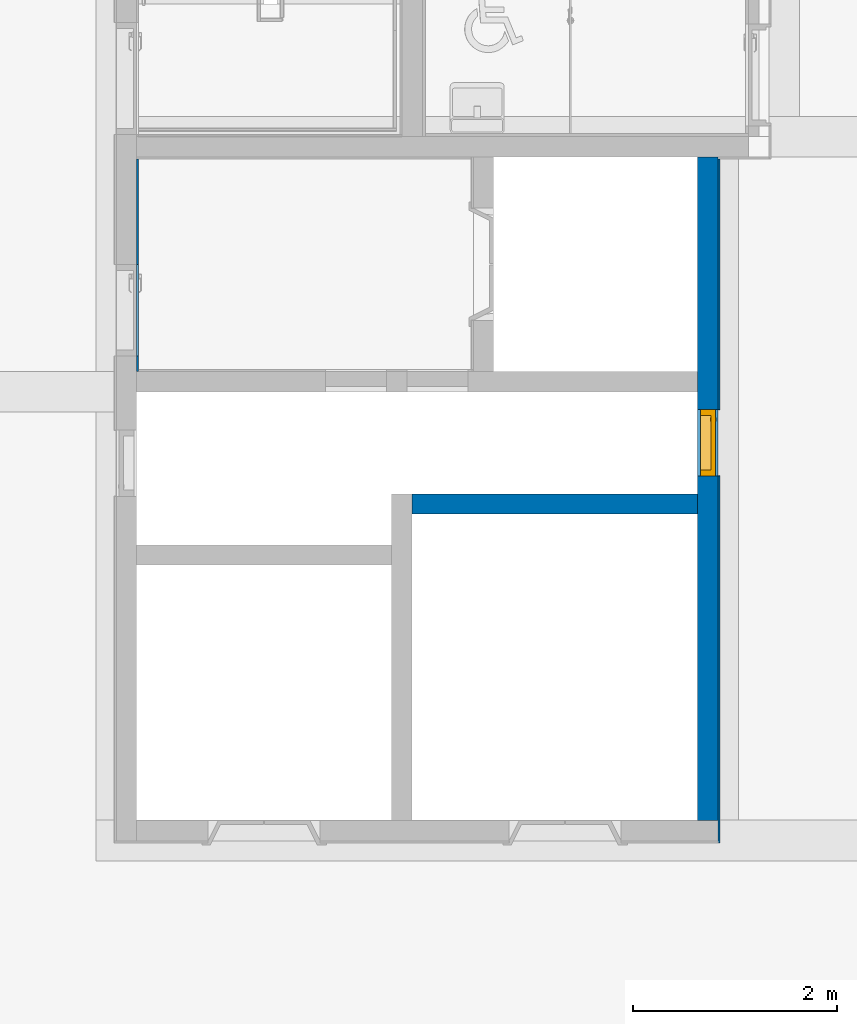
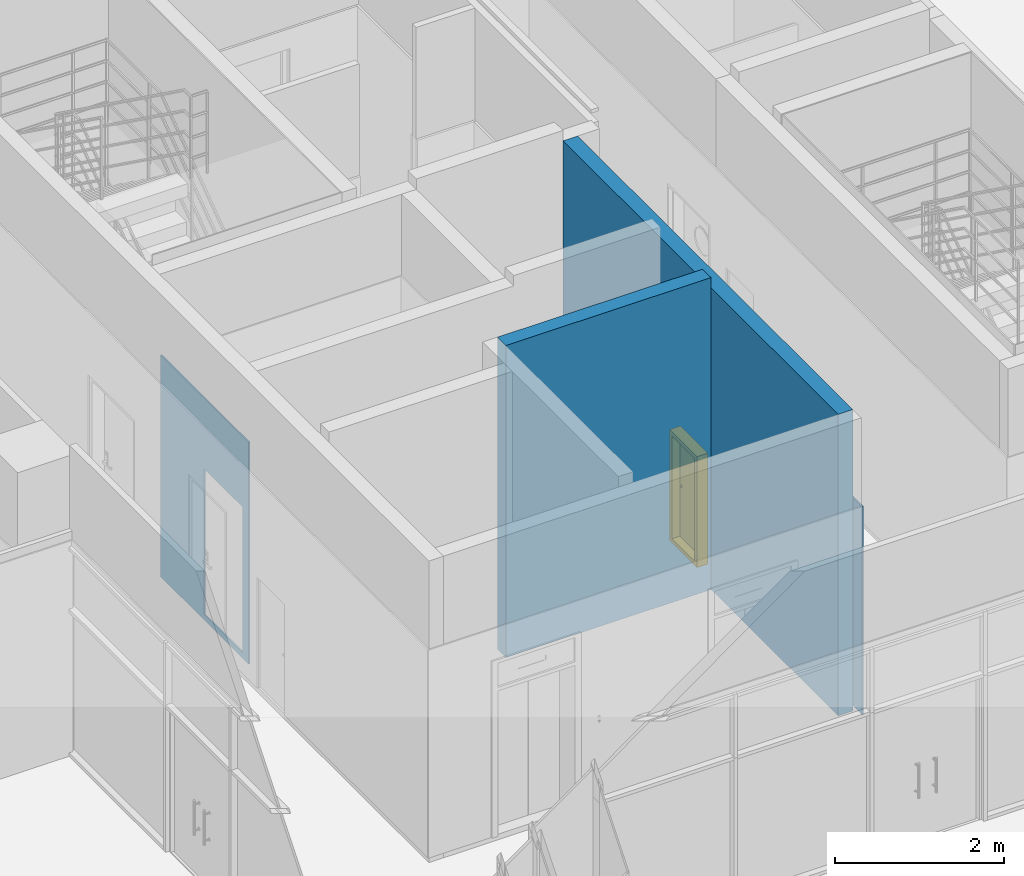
# One storey, part 52 of 74: 4 walls, 1 door, 3 openings.
"""IFC2X3 building model written with IfcOpenShell, lengths in millimetres."""

from ifc_helpers import new_model, entity, si_unit, converted_unit, derived_unit, direction, frame, frame_2d, origin, place, context, subcontext, project, spatial, polyline, rectangle, extrude, clip, bounded_halfspace, faceted_brep, source, transform, mapped, material, material_list, layer, layer_set, layer_usage, type_object, type_shapes, element, fill, save


model = new_model("IFC2X3")

# Units and contexts
model_context = context("Model", 3, precision=0.01, world=origin(), true_north=direction((6.123031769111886e-17, 1.0)))
body_context = subcontext(model_context, "Body", "Model", "MODEL_VIEW")
ifc_project = project(units=[si_unit("LENGTHUNIT", "METRE", prefix="MILLI"), si_unit("AREAUNIT", "SQUARE_METRE"), si_unit("VOLUMEUNIT", "CUBIC_METRE"), converted_unit("PLANEANGLEUNIT", "DEGREE", entity("IfcRatioMeasure", 0.017453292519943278), si_unit("PLANEANGLEUNIT", "RADIAN"), dimensions=[0, 0, 0, 0, 0, 0, 0]), si_unit("MASSUNIT", "GRAM", prefix="KILO"), derived_unit("MASSDENSITYUNIT", [(si_unit("MASSUNIT", "GRAM", prefix="KILO"), 1), (si_unit("LENGTHUNIT", "METRE"), -3)]), derived_unit("MOMENTOFINERTIAUNIT", [(si_unit("LENGTHUNIT", "METRE"), 4)]), si_unit("TIMEUNIT", "SECOND"), si_unit("FREQUENCYUNIT", "HERTZ"), si_unit("THERMODYNAMICTEMPERATUREUNIT", "DEGREE_CELSIUS"), derived_unit("THERMALTRANSMITTANCEUNIT", [(si_unit("MASSUNIT", "GRAM", prefix="KILO"), 1), (si_unit("THERMODYNAMICTEMPERATUREUNIT", "KELVIN"), -1), (si_unit("TIMEUNIT", "SECOND"), -3)]), derived_unit("VOLUMETRICFLOWRATEUNIT", [(si_unit("LENGTHUNIT", "METRE"), 3), (si_unit("TIMEUNIT", "SECOND"), -1)]), derived_unit("MASSFLOWRATEUNIT", [(si_unit("MASSUNIT", "GRAM", prefix="KILO"), 1), (si_unit("TIMEUNIT", "SECOND"), -1)]), derived_unit("ROTATIONALFREQUENCYUNIT", [(si_unit("TIMEUNIT", "SECOND"), -1)]), si_unit("ELECTRICCURRENTUNIT", "AMPERE"), si_unit("ELECTRICVOLTAGEUNIT", "VOLT"), si_unit("POWERUNIT", "WATT"), si_unit("FORCEUNIT", "NEWTON", prefix="KILO"), si_unit("ILLUMINANCEUNIT", "LUX"), si_unit("LUMINOUSFLUXUNIT", "LUMEN"), si_unit("LUMINOUSINTENSITYUNIT", "CANDELA"), derived_unit("USERDEFINED", [(si_unit("MASSUNIT", "GRAM", prefix="KILO"), -1), (si_unit("LENGTHUNIT", "METRE"), -2), (si_unit("TIMEUNIT", "SECOND"), 3), (si_unit("LUMINOUSFLUXUNIT", "LUMEN"), 1)]), derived_unit("SOUNDPOWERUNIT", [(si_unit("MASSUNIT", "GRAM", prefix="KILO"), 1), (si_unit("LENGTHUNIT", "METRE"), 2), (si_unit("TIMEUNIT", "SECOND"), -3)]), derived_unit("SOUNDPRESSUREUNIT", [(si_unit("MASSUNIT", "GRAM", prefix="KILO"), 1), (si_unit("LENGTHUNIT", "METRE"), -1), (si_unit("TIMEUNIT", "SECOND"), -2)]), derived_unit("LINEARVELOCITYUNIT", [(si_unit("LENGTHUNIT", "METRE"), 1), (si_unit("TIMEUNIT", "SECOND"), -1)]), si_unit("PRESSUREUNIT", "PASCAL"), derived_unit("USERDEFINED", [(si_unit("LENGTHUNIT", "METRE"), -2), (si_unit("MASSUNIT", "GRAM", prefix="KILO"), 1), (si_unit("TIMEUNIT", "SECOND"), -2)]), derived_unit("LINEARFORCEUNIT", [(si_unit("MASSUNIT", "GRAM", prefix="KILO"), 1), (si_unit("LENGTHUNIT", "METRE"), 1), (si_unit("TIMEUNIT", "SECOND"), -2), (si_unit("LENGTHUNIT", "METRE"), -1)]), derived_unit("PLANARFORCEUNIT", [(si_unit("MASSUNIT", "GRAM", prefix="KILO"), 1), (si_unit("LENGTHUNIT", "METRE"), 1), (si_unit("TIMEUNIT", "SECOND"), -2), (si_unit("LENGTHUNIT", "METRE"), -2)])], contexts=[model_context])

# Site, building, storey
site_placement = place(None, frame((-14167.972527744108, -657.2125860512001, 0.0)))
site = spatial("IfcSite", under=ifc_project, at=site_placement, Name="Default", CompositionType="ELEMENT")
building_placement = place(site_placement, origin())
building = spatial("IfcBuilding", under=site, at=building_placement, Name="Sample Building", CompositionType="ELEMENT")
storey_placement = place(building_placement, frame((0.0, 0.0, 4800.0)))
storey = spatial("IfcBuildingStorey", under=building, at=storey_placement, Name="지상 2층", CompositionType="ELEMENT", Elevation=4800.000000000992)

# Wall
ifc_material_1 = material(Name="KBIMS-콘크리트")
ifc_layer_1 = layer(ifc_material_1, 200.0)
ifc_layer_set_1 = layer_set([ifc_layer_1], Name="기본 벽:WA111-철근콘크리트구조 벽 200mm_CW1")
ifc_layer_usage_1 = layer_usage(ifc_layer_set_1, "AXIS2", "NEGATIVE", 100.0)
wall_type_1 = type_object("IfcWallType", Name="기본 벽:WA111-철근콘크리트구조 벽 200mm_CW1", PredefinedType="STANDARD", material=ifc_layer_set_1)
wall_1_placement = place(storey_placement, frame((32967.97271708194, 18857.21230965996, -1.9340006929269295e-09)))
element("IfcWallStandardCase", 1, at=wall_1_placement, inside=storey, type_object=wall_type_1, material=ifc_layer_usage_1, Name="기본 벽:WA111-철근콘크리트구조 벽 200mm_CW1", ObjectType="기본 벽:WA111-철근콘크리트구조 벽 200mm_CW1", context=body_context, shape_type="SweptSolid", body=[
    extrude(rectangle(XDim=2799.999774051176, YDim=200.0, at=frame_2d((1399.999887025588, -1.0871303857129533e-12), x_axis=(-1.0, 0.0))), origin(), (0.0, 0.0, 1.0), 4500.000000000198),
])

# Wall, opening, door
ifc_layer_usage_2 = layer_usage(ifc_layer_set_1, "AXIS2", "NEGATIVE", 100.0)
wall_2_placement = place(storey_placement, frame((35867.97249113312, 22257.212311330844, -1.9340006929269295e-09), z_axis=(0.0, 0.0, 1.0), x_axis=(0.0, -1.0, 0.0)))
wall_2 = element("IfcWallStandardCase", 2, at=wall_2_placement, inside=storey, type_object=wall_type_1, material=ifc_layer_usage_2, Name="기본 벽:WA111-철근콘크리트구조 벽 200mm_CW1", ObjectType="기본 벽:WA111-철근콘크리트구조 벽 200mm_CW1", context=body_context, shape_type="Clipping", body=[
    clip(extrude(rectangle(XDim=6503.909364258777, YDim=200.00000000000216, at=frame_2d((3251.9546821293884, -3.154809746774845e-12), x_axis=(-1.0, 0.0))), origin(), (0.0, 0.0, 1.0), 4350.000000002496), bounded_halfspace(frame((6500.000016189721, -100.0, 4350.0), z_axis=(0.0, 0.0, -1.0), x_axis=(0.0, 1.0, 0.0)), True, frame((6500.000016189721, -100.0, 4350.0), z_axis=(0.0, 0.0, -1.0), x_axis=(0.0, 1.0, 0.0)), polyline([(0.0, 0.0), (0.0, -1981200.0049346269), (60960.0, -1981200.0049346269), (60960.0, -0.094198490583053), (60960.0, 1191.5692914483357), (0.0, 1191.5692914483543), (0.0, 0.0)]))),
])
opening_1_placement = place(wall_2_placement, frame((2475.0, -100.0, 80.0)))
opening_1 = element("IfcOpeningElement", 3, at=opening_1_placement, cuts=wall_2, Name="DR872-샤프트 점검구(스테인리스 스틸):DR872-샤프트 점검구(스테인리스 스틸)_650x1600:1", ObjectType="Opening", context=body_context, shape_type="SweptSolid", body=[
    extrude(rectangle(XDim=1600.0, YDim=649.9999999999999, at=frame_2d((800.0, 324.99999999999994), x_axis=(1.0, 0.0))), frame((0.0, 0.0, 0.0), z_axis=(0.0, 1.0, 0.0), x_axis=(0.0, 0.0, 1.0)), (0.0, 0.0, 1.0), 200.0),
])
ifc_material_2 = material(Name="KBIMS-스테인리스 스틸_도금")
ifc_material_list = material_list([ifc_material_2, ifc_material_2, ifc_material_2, ifc_material_2])
door_style = type_object("IfcDoorStyle", Name="DR872-샤프트 점검구(스테인리스 스틸):DR872-샤프트 점검구(스테인리스 스틸)_650x1600", ConstructionType="NOTDEFINED", OperationType="SINGLE_SWING_LEFT", ParameterTakesPrecedence=False, Sizeable=False, material=ifc_material_list)
shared_shape = source(origin(), body_context, "Body", "Brep", [
    faceted_brep([(105.0, 125.0, 782.6794919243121), (109.14213562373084, 125.0, 785.85786437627), (102.50000000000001, 125.0, 787.0096189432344), (98.88228567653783, 125.0, 785.5111126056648), (100.17638090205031, 125.0, 780.6814834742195), (105.60660171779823, 125.0, 789.3933982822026), (112.32050807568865, 125.0, 790.0), (107.99038105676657, 125.0, 792.5000000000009), (109.488887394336, 125.0, 796.1177143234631), (114.31851652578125, 125.0, 794.8236190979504), (110.0, 125.0, 800.0), (115.0, 125.0, 800.0), (109.48888739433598, 125.0, 803.8822856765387), (114.31851652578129, 125.0, 805.1763809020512), (107.99038105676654, 125.0, 807.5000000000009), (112.32050807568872, 125.0, 810.0), (105.60660171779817, 125.0, 810.6066017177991), (109.14213562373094, 125.0, 814.1421356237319), (102.49999999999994, 125.0, 812.9903810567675), (105.0, 125.0, 817.3205080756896), (98.88228567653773, 125.0, 814.4888873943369), (100.17638090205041, 125.0, 819.3185165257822), (95.0, 125.0, 815.0), (95.0, 125.0, 820.0), (91.11771432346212, 125.0, 814.4888873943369), (89.8236190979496, 125.0, 819.3185165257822), (87.49999999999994, 125.0, 812.9903810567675), (85.0, 125.0, 817.3205080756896), (84.39339828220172, 125.0, 810.6066017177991), (80.85786437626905, 125.0, 814.142135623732), (82.00961894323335, 125.0, 807.5000000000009), (77.67949192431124, 125.0, 810.0), (75.6814834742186, 125.0, 805.1763809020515), (80.51111260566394, 125.0, 803.8822856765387), (75.0, 125.0, 800.0), (80.0, 125.0, 800.0), (75.68148347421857, 125.0, 794.8236190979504), (80.51111260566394, 125.0, 796.117714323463), (77.67949192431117, 125.0, 790.0), (82.00961894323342, 125.0, 792.5000000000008), (80.85786437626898, 125.0, 785.85786437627), (84.39339828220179, 125.0, 789.3933982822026), (85.0, 125.0, 782.6794919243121), (87.50000000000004, 125.0, 787.0096189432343), (89.8236190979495, 125.0, 780.6814834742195), (91.11771432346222, 125.0, 785.5111126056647), (95.0, 125.0, 780.0), (95.0, 125.0, 785.0), (105.0, 130.0, 817.3205080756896), (109.14213562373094, 130.0, 814.1421356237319), (102.49999999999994, 130.0, 812.9903810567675), (98.88228567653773, 130.0, 814.4888873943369), (100.17638090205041, 130.0, 819.3185165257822), (105.60660171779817, 130.0, 810.6066017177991), (112.32050807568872, 130.0, 810.0), (107.99038105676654, 130.0, 807.5000000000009), (109.48888739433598, 130.0, 803.8822856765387), (114.31851652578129, 130.0, 805.1763809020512), (110.0, 130.0, 800.0), (115.0, 130.0, 800.0), (109.488887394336, 130.0, 796.1177143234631), (114.31851652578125, 130.0, 794.8236190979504), (107.99038105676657, 130.0, 792.5000000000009), (112.32050807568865, 130.0, 790.0), (105.60660171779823, 130.0, 789.3933982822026), (109.14213562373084, 130.0, 785.85786437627), (102.50000000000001, 130.0, 787.0096189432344), (105.0, 130.0, 782.6794919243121), (98.88228567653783, 130.0, 785.5111126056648), (100.17638090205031, 130.0, 780.6814834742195), (95.0, 130.0, 785.0), (95.0, 130.0, 780.0), (91.11771432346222, 130.0, 785.5111126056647), (89.8236190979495, 130.0, 780.6814834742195), (87.50000000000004, 130.0, 787.0096189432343), (85.0, 130.0, 782.6794919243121), (84.39339828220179, 130.0, 789.3933982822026), (80.85786437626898, 130.0, 785.85786437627), (82.00961894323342, 130.0, 792.5000000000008), (77.67949192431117, 130.0, 790.0), (75.68148347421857, 130.0, 794.8236190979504), (80.51111260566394, 130.0, 796.117714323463), (75.0, 130.0, 800.0), (80.0, 130.0, 800.0), (75.6814834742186, 130.0, 805.1763809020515), (80.51111260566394, 130.0, 803.8822856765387), (77.67949192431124, 130.0, 810.0), (82.00961894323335, 130.0, 807.5000000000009), (80.85786437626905, 130.0, 814.142135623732), (84.39339828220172, 130.0, 810.6066017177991), (85.0, 130.0, 817.3205080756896), (87.49999999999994, 130.0, 812.9903810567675), (89.8236190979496, 130.0, 819.3185165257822), (91.11771432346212, 130.0, 814.4888873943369), (95.0, 130.0, 820.0), (95.0, 130.0, 815.0)], [[[0, 1, 2]], [[0, 2, 3]], [[3, 4, 0]], [[2, 1, 5]], [[6, 5, 1]], [[7, 5, 6]], [[8, 7, 6]], [[8, 6, 9]], [[8, 9, 10]], [[10, 9, 11]], [[12, 10, 11]], [[12, 11, 13]], [[14, 12, 13]], [[14, 13, 15]], [[16, 14, 15]], [[15, 17, 16]], [[17, 18, 16]], [[18, 17, 19]], [[18, 19, 20]], [[21, 20, 19]], [[20, 21, 22]], [[22, 21, 23]], [[23, 24, 22]], [[24, 23, 25]], [[24, 25, 26]], [[27, 26, 25]], [[27, 28, 26]], [[27, 29, 28]], [[30, 28, 29]], [[31, 30, 29]], [[32, 30, 31]], [[33, 30, 32]], [[33, 32, 34]], [[34, 35, 33]], [[36, 35, 34]], [[36, 37, 35]], [[37, 36, 38]], [[39, 37, 38]], [[39, 38, 40]], [[39, 40, 41]], [[40, 42, 41]], [[41, 42, 43]], [[43, 42, 44]], [[44, 45, 43]], [[46, 45, 44]], [[4, 47, 46]], [[45, 46, 47]], [[4, 3, 47]], [[48, 49, 50]], [[48, 50, 51]], [[51, 52, 48]], [[50, 49, 53]], [[54, 53, 49]], [[55, 53, 54]], [[56, 55, 54]], [[56, 54, 57]], [[56, 57, 58]], [[58, 57, 59]], [[60, 58, 59]], [[60, 59, 61]], [[62, 60, 61]], [[62, 61, 63]], [[64, 62, 63]], [[63, 65, 64]], [[65, 66, 64]], [[66, 65, 67]], [[66, 67, 68]], [[69, 68, 67]], [[68, 69, 70]], [[70, 69, 71]], [[71, 72, 70]], [[72, 71, 73]], [[72, 73, 74]], [[75, 74, 73]], [[75, 76, 74]], [[75, 77, 76]], [[78, 76, 77]], [[79, 78, 77]], [[80, 78, 79]], [[81, 78, 80]], [[81, 80, 82]], [[82, 83, 81]], [[84, 83, 82]], [[84, 85, 83]], [[85, 84, 86]], [[87, 85, 86]], [[87, 86, 88]], [[87, 88, 89]], [[88, 90, 89]], [[89, 90, 91]], [[91, 90, 92]], [[92, 93, 91]], [[94, 93, 92]], [[52, 95, 94]], [[93, 94, 95]], [[52, 51, 95]], [[10, 58, 60, 8]], [[8, 60, 62, 7]], [[2, 5, 64, 66]], [[62, 64, 5, 7]], [[3, 2, 66, 68]], [[70, 47, 3, 68]], [[45, 72, 74, 43]], [[43, 74, 76, 41]], [[37, 39, 78, 81]], [[76, 78, 39, 41]], [[35, 37, 81, 83]], [[45, 47, 70, 72]], [[35, 83, 85, 33]], [[33, 85, 87, 30]], [[26, 28, 89, 91]], [[87, 89, 28, 30]], [[24, 26, 91, 93]], [[95, 22, 24, 93]], [[20, 51, 50, 18]], [[18, 50, 53, 16]], [[12, 14, 55, 56]], [[53, 55, 14, 16]], [[10, 12, 56, 58]], [[20, 22, 95, 51]], [[57, 13, 11, 59]], [[54, 15, 13, 57]], [[19, 17, 49, 48]], [[54, 49, 17, 15]], [[21, 19, 48, 52]], [[23, 21, 52, 94]], [[92, 25, 23, 94]], [[90, 27, 25, 92]], [[31, 29, 88, 86]], [[90, 88, 29, 27]], [[32, 31, 86, 84]], [[34, 32, 84, 82]], [[80, 36, 34, 82]], [[79, 38, 36, 80]], [[42, 40, 77, 75]], [[79, 77, 40, 38]], [[44, 42, 75, 73]], [[46, 44, 73, 71]], [[69, 4, 46, 71]], [[67, 0, 4, 69]], [[6, 1, 65, 63]], [[67, 65, 1, 0]], [[9, 6, 63, 61]], [[11, 9, 61, 59]]]),
    faceted_brep([(85.0, 180.0, 782.6794919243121), (80.85786437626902, 180.0, 785.85786437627), (87.4999999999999, 180.0, 787.0096189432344), (91.11771432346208, 180.0, 785.5111126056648), (89.82361909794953, 180.0, 780.6814834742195), (84.39339828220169, 180.0, 789.3933982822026), (77.6794919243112, 180.0, 790.0), (82.00961894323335, 180.0, 792.5000000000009), (80.51111260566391, 180.0, 796.1177143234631), (75.6814834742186, 180.0, 794.8236190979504), (80.0, 180.0, 800.0), (75.0, 180.0, 800.0), (80.51111260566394, 180.0, 803.8822856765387), (75.68148347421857, 180.0, 805.1763809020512), (82.00961894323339, 180.0, 807.5000000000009), (77.67949192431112, 180.0, 810.0), (84.39339828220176, 180.0, 810.6066017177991), (80.85786437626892, 180.0, 814.1421356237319), (87.49999999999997, 180.0, 812.9903810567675), (85.0, 180.0, 817.3205080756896), (91.11771432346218, 180.0, 814.4888873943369), (89.82361909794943, 180.0, 819.3185165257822), (95.0, 180.0, 815.0), (95.0, 180.0, 820.0), (98.8822856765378, 180.0, 814.4888873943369), (100.17638090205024, 180.0, 819.3185165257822), (102.49999999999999, 180.0, 812.9903810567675), (105.0, 180.0, 817.3205080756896), (105.6066017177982, 180.0, 810.6066017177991), (109.1421356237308, 180.0, 814.142135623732), (107.99038105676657, 180.0, 807.5000000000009), (112.32050807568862, 180.0, 810.0), (114.31851652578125, 180.0, 805.1763809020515), (109.48888739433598, 180.0, 803.8822856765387), (115.0, 180.0, 800.0), (110.0, 180.0, 800.0), (114.31851652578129, 180.0, 794.8236190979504), (109.48888739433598, 180.0, 796.117714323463), (112.32050807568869, 180.0, 790.0), (107.9903810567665, 180.0, 792.5000000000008), (109.14213562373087, 180.0, 785.85786437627), (105.60660171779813, 180.0, 789.3933982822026), (105.0, 180.0, 782.6794919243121), (102.49999999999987, 180.0, 787.0096189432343), (100.17638090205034, 180.0, 780.6814834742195), (98.8822856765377, 180.0, 785.5111126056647), (95.0, 180.0, 780.0), (95.0, 180.0, 785.0), (85.0, 175.0, 817.3205080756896), (80.85786437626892, 175.0, 814.1421356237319), (87.49999999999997, 175.0, 812.9903810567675), (91.11771432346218, 175.0, 814.4888873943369), (89.82361909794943, 175.0, 819.3185165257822), (84.39339828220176, 175.0, 810.6066017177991), (77.67949192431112, 175.0, 810.0), (82.00961894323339, 175.0, 807.5000000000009), (80.51111260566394, 175.0, 803.8822856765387), (75.68148347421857, 175.0, 805.1763809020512), (80.0, 175.0, 800.0), (75.0, 175.0, 800.0), (80.51111260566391, 175.0, 796.1177143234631), (75.6814834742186, 175.0, 794.8236190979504), (82.00961894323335, 175.0, 792.5000000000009), (77.6794919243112, 175.0, 790.0), (84.39339828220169, 175.0, 789.3933982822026), (80.85786437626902, 175.0, 785.85786437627), (87.4999999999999, 175.0, 787.0096189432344), (85.0, 175.0, 782.6794919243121), (91.11771432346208, 175.0, 785.5111126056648), (89.82361909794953, 175.0, 780.6814834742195), (95.0, 175.0, 785.0), (95.0, 175.0, 780.0), (98.8822856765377, 175.0, 785.5111126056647), (100.17638090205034, 175.0, 780.6814834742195), (102.49999999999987, 175.0, 787.0096189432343), (105.0, 175.0, 782.6794919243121), (105.60660171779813, 175.0, 789.3933982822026), (109.14213562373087, 175.0, 785.85786437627), (107.9903810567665, 175.0, 792.5000000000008), (112.32050807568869, 175.0, 790.0), (114.31851652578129, 175.0, 794.8236190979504), (109.48888739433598, 175.0, 796.117714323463), (115.0, 175.0, 800.0), (110.0, 175.0, 800.0), (114.31851652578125, 175.0, 805.1763809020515), (109.48888739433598, 175.0, 803.8822856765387), (112.32050807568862, 175.0, 810.0), (107.99038105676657, 175.0, 807.5000000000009), (109.1421356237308, 175.0, 814.142135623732), (105.6066017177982, 175.0, 810.6066017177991), (105.0, 175.0, 817.3205080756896), (102.49999999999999, 175.0, 812.9903810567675), (100.17638090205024, 175.0, 819.3185165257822), (98.8822856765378, 175.0, 814.4888873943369), (95.0, 175.0, 820.0), (95.0, 175.0, 815.0)], [[[0, 1, 2]], [[0, 2, 3]], [[3, 4, 0]], [[2, 1, 5]], [[6, 5, 1]], [[7, 5, 6]], [[8, 7, 6]], [[8, 6, 9]], [[8, 9, 10]], [[10, 9, 11]], [[12, 10, 11]], [[12, 11, 13]], [[14, 12, 13]], [[14, 13, 15]], [[16, 14, 15]], [[15, 17, 16]], [[17, 18, 16]], [[18, 17, 19]], [[18, 19, 20]], [[21, 20, 19]], [[20, 21, 22]], [[22, 21, 23]], [[23, 24, 22]], [[24, 23, 25]], [[24, 25, 26]], [[27, 26, 25]], [[27, 28, 26]], [[27, 29, 28]], [[30, 28, 29]], [[31, 30, 29]], [[32, 30, 31]], [[33, 30, 32]], [[33, 32, 34]], [[34, 35, 33]], [[36, 35, 34]], [[36, 37, 35]], [[37, 36, 38]], [[39, 37, 38]], [[39, 38, 40]], [[39, 40, 41]], [[40, 42, 41]], [[41, 42, 43]], [[43, 42, 44]], [[44, 45, 43]], [[46, 45, 44]], [[4, 47, 46]], [[45, 46, 47]], [[4, 3, 47]], [[48, 49, 50]], [[48, 50, 51]], [[51, 52, 48]], [[50, 49, 53]], [[54, 53, 49]], [[55, 53, 54]], [[56, 55, 54]], [[56, 54, 57]], [[56, 57, 58]], [[58, 57, 59]], [[60, 58, 59]], [[60, 59, 61]], [[62, 60, 61]], [[62, 61, 63]], [[64, 62, 63]], [[63, 65, 64]], [[65, 66, 64]], [[66, 65, 67]], [[66, 67, 68]], [[69, 68, 67]], [[68, 69, 70]], [[70, 69, 71]], [[71, 72, 70]], [[72, 71, 73]], [[72, 73, 74]], [[75, 74, 73]], [[75, 76, 74]], [[75, 77, 76]], [[78, 76, 77]], [[79, 78, 77]], [[80, 78, 79]], [[81, 78, 80]], [[81, 80, 82]], [[82, 83, 81]], [[84, 83, 82]], [[84, 85, 83]], [[85, 84, 86]], [[87, 85, 86]], [[87, 86, 88]], [[87, 88, 89]], [[88, 90, 89]], [[89, 90, 91]], [[91, 90, 92]], [[92, 93, 91]], [[94, 93, 92]], [[52, 95, 94]], [[93, 94, 95]], [[52, 51, 95]], [[35, 83, 85, 33]], [[33, 85, 87, 30]], [[26, 28, 89, 91]], [[87, 89, 28, 30]], [[24, 26, 91, 93]], [[95, 22, 24, 93]], [[20, 51, 50, 18]], [[18, 50, 53, 16]], [[12, 14, 55, 56]], [[53, 55, 14, 16]], [[10, 12, 56, 58]], [[20, 22, 95, 51]], [[10, 58, 60, 8]], [[8, 60, 62, 7]], [[2, 5, 64, 66]], [[62, 64, 5, 7]], [[3, 2, 66, 68]], [[70, 47, 3, 68]], [[45, 72, 74, 43]], [[43, 74, 76, 41]], [[37, 39, 78, 81]], [[76, 78, 39, 41]], [[35, 37, 81, 83]], [[45, 47, 70, 72]], [[80, 36, 34, 82]], [[79, 38, 36, 80]], [[42, 40, 77, 75]], [[79, 77, 40, 38]], [[44, 42, 75, 73]], [[46, 44, 73, 71]], [[69, 4, 46, 71]], [[67, 0, 4, 69]], [[6, 1, 65, 63]], [[67, 65, 1, 0]], [[9, 6, 63, 61]], [[11, 9, 61, 59]], [[57, 13, 11, 59]], [[54, 15, 13, 57]], [[19, 17, 49, 48]], [[54, 49, 17, 15]], [[21, 19, 48, 52]], [[23, 21, 52, 94]], [[92, 25, 23, 94]], [[90, 27, 25, 92]], [[31, 29, 88, 86]], [[90, 88, 29, 27]], [[32, 31, 86, 84]], [[34, 32, 84, 82]]]),
    faceted_brep([(620.0, 175.0, 1570.0), (30.0, 175.0, 1570.0), (30.0, 130.0, 1570.0), (620.0, 130.0, 1570.0), (620.0, 175.0, 30.0), (620.0, 130.0, 30.0), (30.0, 130.0, 30.0), (30.0, 175.0, 30.0)], [[[0, 1, 2, 3]], [[4, 5, 6, 7]], [[1, 0, 4, 7]], [[2, 1, 7, 6]], [[3, 2, 6, 5]], [[0, 3, 5, 4]]]),
    faceted_brep([(30.0, 130.0, 1570.0), (30.0, 175.0, 1570.0), (620.0, 175.0, 1570.0), (620.0, 130.0, 1570.0), (60.0, 25.0, 1540.0), (60.0, 130.0, 1540.0), (590.0, 130.0, 1540.0), (590.0, 25.0, 1540.0), (0.0, 175.0, 1600.0), (0.0, 25.0, 1600.0), (650.0, 25.0, 1600.0), (650.0, 175.0, 1600.0), (620.0, 175.0, 30.0), (620.0, 130.0, 30.0), (590.0, 130.0, 60.0), (590.0, 25.0, 60.0), (650.0, 25.0, 0.0), (650.0, 175.0, 0.0), (30.0, 175.0, 30.0), (30.0, 130.0, 30.0), (60.0, 130.0, 60.0), (60.0, 25.0, 60.0), (0.0, 25.0, 0.0), (0.0, 175.0, 0.0)], [[[0, 1, 2, 3]], [[4, 5, 6, 7]], [[8, 9, 10, 11]], [[3, 2, 12, 13]], [[7, 6, 14, 15]], [[11, 10, 16, 17]], [[13, 12, 18, 19]], [[15, 14, 20, 21]], [[17, 16, 22, 23]], [[19, 18, 1, 0]], [[3, 13, 19, 0], [5, 20, 14, 6]], [[21, 20, 5, 4]], [[7, 15, 21, 4], [9, 22, 16, 10]], [[23, 22, 9, 8]], [[11, 17, 23, 8], [1, 18, 12, 2]]], outer=[[True], [True], [True], [True], [True], [True], [True], [True], [True], [True], [True, False], [True], [False, True], [True], [True, False]]),
])
type_shapes(door_style, [shared_shape])
door_placement = place(opening_1_placement, frame((2.5062981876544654e-06, 0.0, 1.9335857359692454e-09)))
door = element("IfcDoor", 4, at=door_placement, inside=storey, type_object=door_style, material=ifc_material_2, Name="DR872-샤프트 점검구(스테인리스 스틸):DR872-샤프트 점검구(스테인리스 스틸)_650x1600", ObjectType="DR872-샤프트 점검구(스테인리스 스틸):DR872-샤프트 점검구(스테인리스 스틸)_650x1600", OverallHeight=1600.0, OverallWidth=649.9999999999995, context=body_context, shape_type="MappedRepresentation", body=[
    mapped(shared_shape, transform((0.0, 0.0, 0.0), scale=1.0)),
])
fill(opening_1, door)

# Wall, opening
ifc_material_3 = material(Name="WA611-수성페인트 (내부) 벽 (3회)")
ifc_layer_2 = layer(ifc_material_3, 1.0)
ifc_material_4 = material(Name="WA551-시멘트모르타르 (내부) 벽 18mm")
ifc_layer_3 = layer(ifc_material_4, 16.0)
ifc_material_5 = material(Name="WA555-콘크리트면정리 벽 (내부)")
ifc_layer_4 = layer(ifc_material_5, 1.0)
ifc_layer_set_2 = layer_set([ifc_layer_2, ifc_layer_3, ifc_layer_4], Name="기본 벽:A1-32-06A-콘크리트면정리, 시멘트모르타르(미장용), 수성페인트(내부) (18mm)")
ifc_layer_usage_3 = layer_usage(ifc_layer_set_2, "AXIS2", "POSITIVE", -9.000000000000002)
wall_type_2 = type_object("IfcWallType", Name="기본 벽:A1-32-06A-콘크리트면정리, 시멘트모르타르(미장용), 수성페인트(내부) (18mm)", PredefinedType="STANDARD", material=ifc_layer_set_2)
wall_3_placement = place(storey_placement, frame((30276.963761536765, 20157.212307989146, 0.0), z_axis=(0.0, 0.0, 1.0), x_axis=(0.0, 1.0, 0.0)))
wall_3 = element("IfcWallStandardCase", 5, at=wall_3_placement, inside=storey, type_object=wall_type_2, material=ifc_layer_usage_3, Name="기본 벽:A1-32-06A-콘크리트면정리, 시멘트모르타르(미장용), 수성페인트(내부) (18mm)", ObjectType="기본 벽:A1-32-06A-콘크리트면정리, 시멘트모르타르(미장용), 수성페인트(내부) (18mm)", context=body_context, shape_type="SweptSolid", body=[
    extrude(rectangle(XDim=2082.0000033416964, YDim=18.00000000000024, at=frame_2d((1041.0000016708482, -2.1662671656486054e-12), x_axis=(-1.0, 0.0))), origin(), (0.0, 0.0, 1.0), 3200.0),
])
opening_2_placement = place(wall_3_placement, origin())
element("IfcOpeningElement", 6, at=opening_2_placement, cuts=wall_3, Name="기본 벽:A1-32-06A-콘크리트면정리, 시멘트모르타르(미장용), 수성페인트(내부) (18mm)", ObjectType="Opening", context=body_context, shape_type="SweptSolid", body=[
    extrude(rectangle(XDim=2099.999999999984, YDim=899.999999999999, at=frame_2d((0.0, 2.1600499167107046e-12), x_axis=(1.0, 0.0))), frame((599.9653180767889, -1315.0, 1130.0), z_axis=(0.0, 1.0, 0.0), x_axis=(0.0, 0.0, 1.0)), (0.0, 0.0, 1.0), 3048.0),
])

ifc_layer_usage_4 = layer_usage(ifc_layer_set_2, "AXIS2", "NEGATIVE", 9.000000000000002)
wall_4_placement = place(storey_placement, frame((35976.97249113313, 22239.212311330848, 80.0), z_axis=(0.0, 0.0, 1.0), x_axis=(0.0, -1.0, 0.0)))
wall_4 = element("IfcWallStandardCase", 7, at=wall_4_placement, inside=storey, type_object=wall_type_2, material=ifc_layer_usage_4, Name="기본 벽:A1-32-06A-콘크리트면정리, 시멘트모르타르(미장용), 수성페인트(내부) (18mm)", ObjectType="기본 벽:A1-32-06A-콘크리트면정리, 시멘트모르타르(미장용), 수성페인트(내부) (18mm)", context=body_context, shape_type="SweptSolid", body=[
    extrude(rectangle(XDim=6703.909364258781, YDim=18.00000000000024, at=frame_2d((3351.9546821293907, -2.154720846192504e-12), x_axis=(1.0, 0.0))), origin(), (0.0, 0.0, 1.0), 3000.000000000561),
])
opening_3_placement = place(wall_4_placement, origin())
element("IfcOpeningElement", 8, at=opening_3_placement, cuts=wall_4, Name="기본 벽:A1-32-06A-콘크리트면정리, 시멘트모르타르(미장용), 수성페인트(내부) (18mm)", ObjectType="Opening", context=body_context, shape_type="SweptSolid", body=[
    extrude(rectangle(XDim=1600.0, YDim=649.9999999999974, at=frame_2d((-1.0800249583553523e-12, 0.0), x_axis=(0.0, 1.0))), frame((2782.0, -1733.0, 800.0), z_axis=(0.0, 1.0, 0.0), x_axis=(-1.0, 0.0, 0.0)), (0.0, 0.0, 1.0), 3048.0),
])

save(model, "model.ifc")
